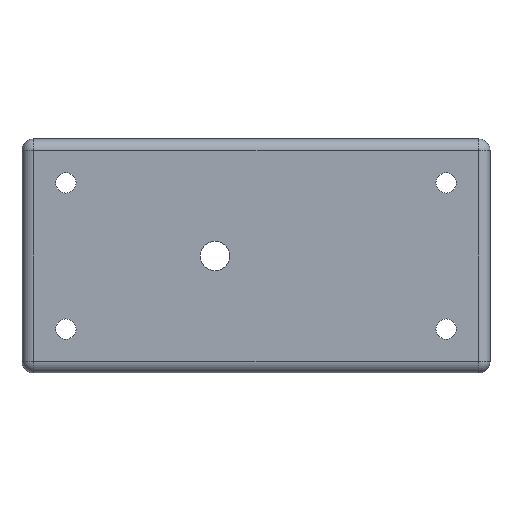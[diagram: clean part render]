
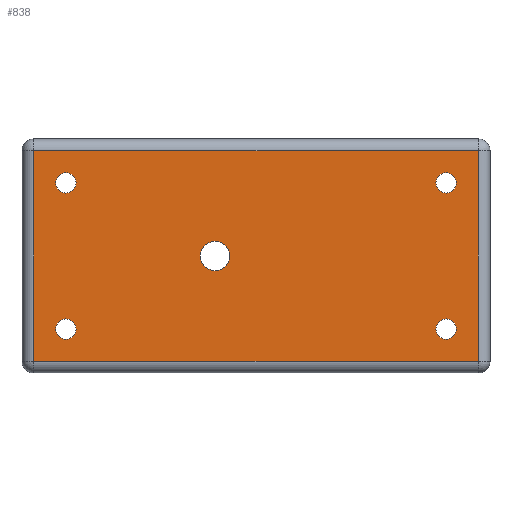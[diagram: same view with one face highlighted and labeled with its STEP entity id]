
A CAD part, front view. The second image highlights one B-rep face of the part: STEP entity #838.
In plain terms, the highlighted planar face has unit normal (0, -1, 0).
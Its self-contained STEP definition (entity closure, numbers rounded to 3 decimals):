
#15=FACE_BOUND('',#132,.T.);
#16=FACE_BOUND('',#133,.T.);
#17=FACE_BOUND('',#134,.T.);
#18=FACE_BOUND('',#135,.T.);
#19=FACE_BOUND('',#136,.T.);
#38=PLANE('',#936);
#83=FACE_OUTER_BOUND('',#131,.T.);
#131=EDGE_LOOP('',(#696,#697,#698,#699));
#132=EDGE_LOOP('',(#700));
#133=EDGE_LOOP('',(#701));
#134=EDGE_LOOP('',(#702));
#135=EDGE_LOOP('',(#703));
#136=EDGE_LOOP('',(#704));
#198=LINE('',#1373,#271);
#199=LINE('',#1382,#272);
#203=LINE('',#1395,#276);
#205=LINE('',#1398,#278);
#271=VECTOR('',#1108,10.);
#272=VECTOR('',#1119,10.);
#276=VECTOR('',#1135,10.);
#278=VECTOR('',#1139,10.);
#339=CIRCLE('',#937,1.75);
#340=CIRCLE('',#938,1.75);
#341=CIRCLE('',#939,1.75);
#342=CIRCLE('',#940,1.75);
#343=CIRCLE('',#941,2.5);
#399=VERTEX_POINT('',#1363);
#401=VERTEX_POINT('',#1369);
#402=VERTEX_POINT('',#1375);
#407=VERTEX_POINT('',#1391);
#408=VERTEX_POINT('',#1411);
#409=VERTEX_POINT('',#1413);
#410=VERTEX_POINT('',#1415);
#411=VERTEX_POINT('',#1417);
#412=VERTEX_POINT('',#1419);
#495=EDGE_CURVE('',#399,#401,#198,.T.);
#499=EDGE_CURVE('',#402,#399,#199,.T.);
#506=EDGE_CURVE('',#401,#407,#203,.T.);
#508=EDGE_CURVE('',#407,#402,#205,.T.);
#515=EDGE_CURVE('',#408,#408,#339,.T.);
#516=EDGE_CURVE('',#409,#409,#340,.T.);
#517=EDGE_CURVE('',#410,#410,#341,.T.);
#518=EDGE_CURVE('',#411,#411,#342,.T.);
#519=EDGE_CURVE('',#412,#412,#343,.T.);
#696=ORIENTED_EDGE('',*,*,#495,.F.);
#697=ORIENTED_EDGE('',*,*,#499,.F.);
#698=ORIENTED_EDGE('',*,*,#508,.F.);
#699=ORIENTED_EDGE('',*,*,#506,.F.);
#700=ORIENTED_EDGE('',*,*,#515,.F.);
#701=ORIENTED_EDGE('',*,*,#516,.F.);
#702=ORIENTED_EDGE('',*,*,#517,.F.);
#703=ORIENTED_EDGE('',*,*,#518,.F.);
#704=ORIENTED_EDGE('',*,*,#519,.T.);
#838=ADVANCED_FACE('',(#83,#15,#16,#17,#18,#19),#38,.F.);
#936=AXIS2_PLACEMENT_3D('',#1410,#1156,#1157);
#937=AXIS2_PLACEMENT_3D('',#1412,#1158,#1159);
#938=AXIS2_PLACEMENT_3D('',#1414,#1160,#1161);
#939=AXIS2_PLACEMENT_3D('',#1416,#1162,#1163);
#940=AXIS2_PLACEMENT_3D('',#1418,#1164,#1165);
#941=AXIS2_PLACEMENT_3D('',#1420,#1166,#1167);
#1108=DIRECTION('',(0.,0.,1.));
#1119=DIRECTION('',(-1.,0.,0.));
#1135=DIRECTION('',(1.,0.,0.));
#1139=DIRECTION('',(0.,0.,-1.));
#1156=DIRECTION('center_axis',(0.,1.,0.));
#1157=DIRECTION('ref_axis',(1.,0.,0.));
#1158=DIRECTION('center_axis',(0.,-1.,0.));
#1159=DIRECTION('ref_axis',(1.,0.,0.));
#1160=DIRECTION('center_axis',(0.,-1.,0.));
#1161=DIRECTION('ref_axis',(1.,0.,0.));
#1162=DIRECTION('center_axis',(0.,-1.,0.));
#1163=DIRECTION('ref_axis',(1.,0.,0.));
#1164=DIRECTION('center_axis',(0.,-1.,0.));
#1165=DIRECTION('ref_axis',(1.,0.,0.));
#1166=DIRECTION('center_axis',(0.,1.,0.));
#1167=DIRECTION('ref_axis',(1.,0.,0.));
#1363=CARTESIAN_POINT('',(-38.,0.,-18.));
#1369=CARTESIAN_POINT('',(-38.,0.,18.));
#1373=CARTESIAN_POINT('',(-38.,0.,-10.));
#1375=CARTESIAN_POINT('',(38.,0.,-18.));
#1382=CARTESIAN_POINT('',(20.,0.,-18.));
#1391=CARTESIAN_POINT('',(38.,0.,18.));
#1395=CARTESIAN_POINT('',(-20.,0.,18.));
#1398=CARTESIAN_POINT('',(38.,0.,10.));
#1410=CARTESIAN_POINT('Origin',(0.,0.,0.));
#1411=CARTESIAN_POINT('',(30.75,0.,-12.5));
#1412=CARTESIAN_POINT('Origin',(32.5,0.,-12.5));
#1413=CARTESIAN_POINT('',(30.75,0.,12.5));
#1414=CARTESIAN_POINT('Origin',(32.5,0.,12.5));
#1415=CARTESIAN_POINT('',(-34.25,0.,12.5));
#1416=CARTESIAN_POINT('Origin',(-32.5,0.,12.5));
#1417=CARTESIAN_POINT('',(-34.25,0.,-12.5));
#1418=CARTESIAN_POINT('Origin',(-32.5,0.,-12.5));
#1419=CARTESIAN_POINT('',(-9.5,0.,0.));
#1420=CARTESIAN_POINT('Origin',(-7.,0.,0.));
